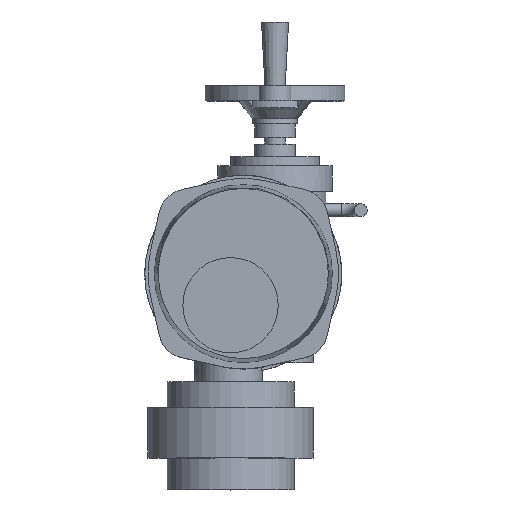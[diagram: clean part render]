
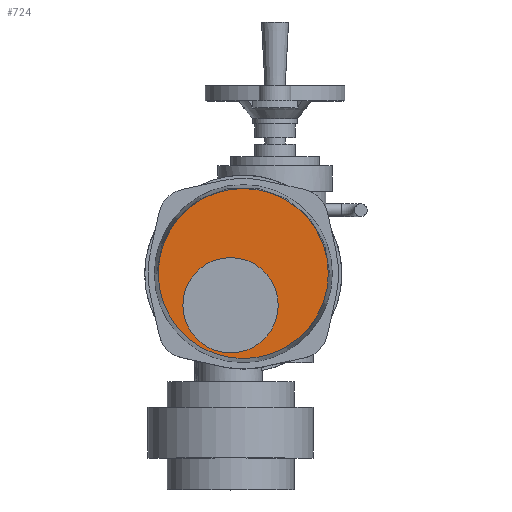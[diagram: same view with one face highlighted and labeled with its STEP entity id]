
A CAD part, top view. The second image highlights one B-rep face of the part: STEP entity #724.
In plain terms, the highlighted planar face has unit normal (0, 0, 1).
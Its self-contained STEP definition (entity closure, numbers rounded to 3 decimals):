
#724=ADVANCED_FACE('',(#7232,#7234),#7236,.T.);
#7232=FACE_BOUND('',#7233,.T.);
#7233=EDGE_LOOP('',(#12295));
#7234=FACE_BOUND('',#7235,.T.);
#7235=EDGE_LOOP('',(#12296));
#7236=PLANE('',#7237);
#7237=AXIS2_PLACEMENT_3D('',#7238,#7239,#7240);
#7238=CARTESIAN_POINT('',(15.,30.,382.));
#7239=DIRECTION('',(0.,0.,1.));
#7240=DIRECTION('',(-1.,0.,0.));
#12295=ORIENTED_EDGE('',*,*,#16187,.T.);
#12296=ORIENTED_EDGE('',*,*,#16190,.F.);
#16187=EDGE_CURVE('',#18347,#18347,#18348,.T.);
#16190=EDGE_CURVE('',#18353,#18353,#18354,.T.);
#18347=VERTEX_POINT('',#22760);
#18348=CIRCLE('',#22761,66.908);
#18353=VERTEX_POINT('',#22775);
#18354=CIRCLE('',#22776,37.5);
#22760=CARTESIAN_POINT('',(-51.908,30.,382.));
#22761=AXIS2_PLACEMENT_3D('',#22762,#22763,#22764);
#22762=CARTESIAN_POINT('',(15.,30.,382.));
#22763=DIRECTION('',(0.,0.,1.));
#22764=DIRECTION('',(-1.,0.,0.));
#22775=CARTESIAN_POINT('',(-32.5,5.,382.));
#22776=AXIS2_PLACEMENT_3D('',#22777,#22778,#22779);
#22777=CARTESIAN_POINT('',(5.,5.,382.));
#22778=DIRECTION('',(0.,0.,1.));
#22779=DIRECTION('',(-1.,0.,0.));
